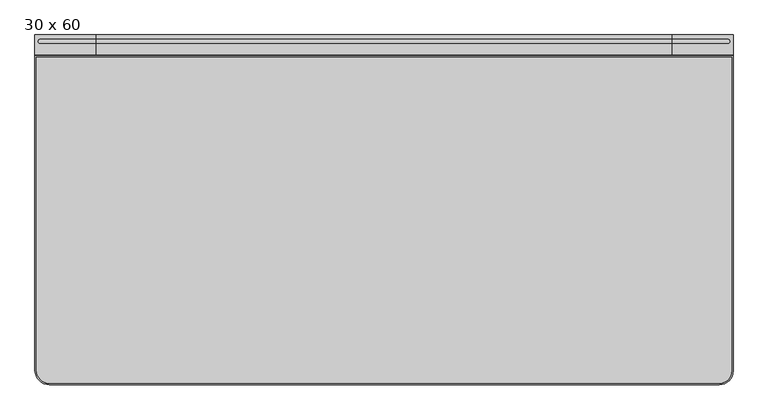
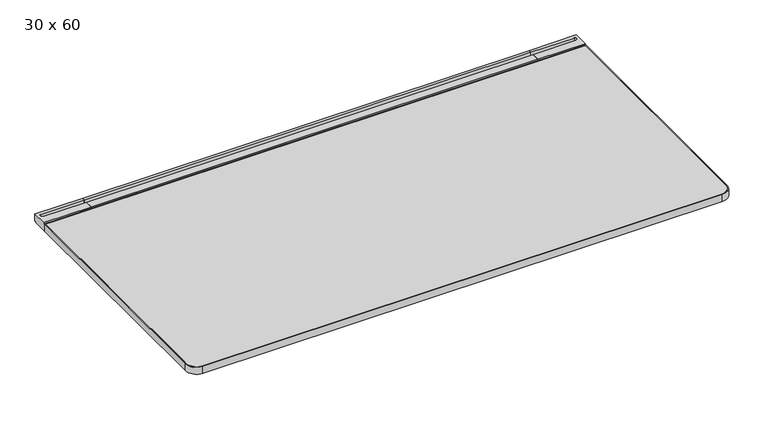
"""IFC4 building model written with IfcOpenShell, lengths in millimetres: furniture geometry, Steelcase - C Scape - Desking - Straight : 30 x 60."""

from ifc_helpers import new_model, si_unit, point, frame, frame_2d, origin, place, context, project, spatial, polyline, circle_curve, trimmed, segment, composite_curve, outline, extrude, faceted_brep, source, transform, mapped, element, save
from ifc_brep_helpers import plane_surface, cylinder_surface, revolved_surface, advanced_brep


def furniture_30_x_60_1927a441(model_context):
    return source(origin(), model_context, "Body", "SolidModel", [
        advanced_brep(
        [(1389.4562243, -45.3135132, 703.3768), (1389.4562243, -45.3135132, 722.4268341), (1389.4562243, -42.7750923, 722.4268341), (1389.4562243, -42.7750923, 725.932), (1389.4562243, -19.3290527, 725.932), (1389.4562243, -19.3290527, 713.486), (1389.4562243, -8.5111084, 713.486), (1389.4562243, -8.5111084, 725.932), (1389.4562243, 0.0, 725.932), (1389.4562243, 0.0, 705.1038636), (1389.4562243, -3.2278472, 705.1038636), (1389.4562243, -4.0331902, 703.3768), (1522.4760119, -45.3135132, 703.3768), (1522.4760119, -4.0331902, 703.3768), (1522.4760119, -3.2278472, 705.1038636), (1522.4760119, 0.0, 705.1038636), (1522.4760119, 0.0, 725.932), (1522.4760119, -42.7750923, 725.932), (1522.4760119, -42.7750923, 722.4268341), (1522.4760119, -45.3135132, 722.4268341), (1510.7139392, -8.5111084, 725.932), (1510.7139392, -19.3290527, 725.932), (1510.7139392, -19.3290527, 713.486), (1510.7139392, -8.5111084, 713.486)],
        [
            (0, 1),
            (1, 2),
            (2, 3),
            (3, 4),
            (4, 5),
            (5, 6),
            (6, 7),
            (7, 8),
            (8, 9),
            (9, 10),
            (10, 11),
            (11, 0),
            (12, 13),
            (13, 14),
            (14, 15),
            (15, 16),
            (16, 17),
            (17, 18),
            (18, 19),
            (19, 12),
            (11, 13),
            (12, 0),
            (10, 14),
            (9, 15),
            (8, 16),
            (7, 20),
            (20, 21, circle_curve(frame((1510.7139392, -13.9200806, 725.932), z_axis=(0.0, 0.0, -1.0), x_axis=(-1.0, 0.0, 0.0)), 5.4089722)),
            (21, 4),
            (3, 17),
            (2, 18),
            (1, 19),
            (5, 22),
            (22, 23, circle_curve(frame((1510.7139392, -13.9200806, 713.486), z_axis=(0.0, 0.0, 1.0), x_axis=(-1.0, 0.0, 0.0)), 5.4089722)),
            (23, 6),
            (23, 20),
            (22, 21),
        ],
        [
            plane_surface(frame((1389.4562243, -45.3135132, 703.3768), z_axis=(-1.0, 0.0, 0.0), x_axis=(0.0, 1.0, 0.0))),
            plane_surface(frame((1522.4760119, -45.3135132, 703.3768), z_axis=(1.0, 0.0, 0.0), x_axis=(0.0, -1.0, 0.0))),
            plane_surface(frame((1389.4562243, -45.3135132, 703.3768), z_axis=(0.0, 0.0, -1.0), x_axis=(1.0, 0.0, 0.0))),
            plane_surface(frame((1389.4562243, -4.0331902, 703.3768), z_axis=(0.0, 0.9063077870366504, -0.4226182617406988), x_axis=(1.0, 0.0, 0.0))),
            plane_surface(frame((1389.4562243, -3.2278472, 705.1038636), z_axis=(0.0, 0.0, -1.0), x_axis=(1.0, 0.0, 0.0))),
            plane_surface(frame((1389.4562243, 0.0, 705.1038636), z_axis=(0.0, 1.0, 0.0), x_axis=(1.0, 0.0, 0.0))),
            plane_surface(frame((1389.4562243, 0.0, 725.932), z_axis=(0.0, 0.0, 1.0), x_axis=(1.0, 0.0, 0.0))),
            plane_surface(frame((1389.4562243, -42.7750923, 725.932), z_axis=(0.0, -1.0, 0.0), x_axis=(1.0, 0.0, 0.0))),
            plane_surface(frame((1389.4562243, -42.7750923, 722.4268341), z_axis=(0.0, 0.0, 1.0), x_axis=(1.0, 0.0, 0.0))),
            plane_surface(frame((1389.4562243, -45.3135132, 722.4268341), z_axis=(0.0, -1.0, 0.0), x_axis=(1.0, 0.0, 0.0))),
            plane_surface(frame((1510.7139392, -8.5111084, 713.486), z_axis=(0.0, 0.0, 1.0), x_axis=(-1.0, 0.0, 0.0))),
            plane_surface(frame((1389.4562243, -8.5111084, 731.2180541), z_axis=(0.0, -1.0, 0.0), x_axis=(0.0, 0.0, -1.0))),
            revolved_surface(polyline([(1505.3049669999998, -13.9200806, 725.932), (1505.3049669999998, -13.9200806, 713.486)]), (1510.7139392, -13.9200806, 713.486), (0.0, 0.0, 1.0)),
            plane_surface(frame((1510.7139392, -19.3290527, 731.2180541), z_axis=(0.0, 1.0, 0.0), x_axis=(0.0, 0.0, -1.0))),
        ],
        [
            (0, [[1, 2, 3, 4, 5, 6, 7, 8, 9, 10, 11, 12]]),
            (1, [[13, 14, 15, 16, 17, 18, 19, 20]]),
            (2, [[21, -13, 22, -12]]),
            (3, [[23, -14, -21, -11]]),
            (4, [[24, -15, -23, -10]]),
            (5, [[25, -16, -24, -9]]),
            (6, [[-25, -8, 26, 27, 28, -4, 29, -17]]),
            (7, [[30, -18, -29, -3]]),
            (8, [[31, -19, -30, -2]]),
            (9, [[-22, -20, -31, -1]]),
            (10, [[-6, 32, 33, 34]]),
            (11, [[35, -26, -7, -34]]),
            (12, [[36, -27, -35, -33]]),
            (13, [[-5, -28, -36, -32]]),
        ],
    ),
        faceted_brep([(1503.4252487, -565.0752923, 700.7093833), (1503.4252487, -565.0752923, 703.3768), (1389.4562243, -565.0752923, 703.3768), (1389.4562243, -565.0752923, 679.3263935), (1405.0903818, -565.0752923, 679.3263935), (1407.710924, -565.0752923, 693.4200291), (1489.1501391, -565.0752923, 693.4200291), (1503.4252487, -4.0331902, 700.7093833), (1489.1501391, -4.0331902, 693.4200291), (1407.710924, -4.0331902, 693.4200291), (1395.8046772, -4.0331902, 629.3866), (1389.4562243, -4.0331902, 629.3866), (1389.4562243, -4.0331902, 703.3768), (1503.4252487, -4.0331902, 703.3768), (1402.9251068, -376.5599397, 667.6812472), (1395.8046772, -364.1172546, 629.3866), (1389.4562243, -364.1172546, 629.3866), (1389.4562243, -376.5599397, 667.6812472)], [[[0, 1, 2, 3, 4, 5, 6]], [[7, 8, 9, 10, 11, 12, 13]], [[6, 8, 7, 0]], [[5, 9, 8, 6]], [[9, 5, 4, 14, 15, 10]], [[10, 15, 16, 11]], [[11, 16, 17, 3, 2, 12]], [[1, 13, 12, 2]], [[0, 7, 13, 1]], [[14, 4, 3, 17]], [[17, 16, 15, 14]]]),
        extrude(outline(composite_curve([segment(polyline([(-293.5216187, 657.3775839), (-559.0022133, 680.1371551)]), True, "CONTINUOUS"), segment(trimmed(circle_curve(frame_2d((-558.7581271, 682.9843154)), 2.8576039), [point((-559.0022133, 680.1371551))], [point((-561.5383043, 682.3236226))], False, "CARTESIAN"), True, "CONTINUOUS"), segment(polyline([(-561.5383043, 682.3236226), (-566.0887542, 701.4717905), (-557.8334441, 701.4717905), (-557.8334441, 703.3768), (-442.6683806, 703.3768), (-442.6683806, 696.3917953), (-318.2108611, 696.3917953), (-318.2108611, 703.3768), (-293.5216187, 703.3768), (-293.5216187, 657.3775839)]), True, "CONTINUOUS")], self_intersect=False)), frame((725.424, 0.0, 0.0), z_axis=(1.0, 0.0, 0.0), x_axis=(0.0, 1.0, 0.0)), (0.0, 0.0, 1.0), 73.152),
        advanced_brep(
        [(134.6072876, -45.3135132, 703.3768), (134.6072876, -4.0331902, 703.3768), (134.6072876, -3.2278472, 705.1038636), (134.6072876, 0.0, 705.1038636), (134.6072876, 0.0, 725.932), (134.6072876, -8.5111084, 725.932), (134.6072876, -8.5111084, 713.486), (134.6072876, -19.3290527, 713.486), (134.6072876, -19.3290527, 725.932), (134.6072876, -42.7750923, 725.932), (134.6072876, -42.7750923, 722.4268341), (134.6072876, -45.3135132, 722.4268341), (1.5875, -45.3135132, 703.3768), (1.5875, -45.3135132, 722.4268341), (1.5875, -42.7750923, 722.4268341), (1.5875, -42.7750923, 725.932), (1.5875, 0.0, 725.932), (1.5875, 0.0, 705.1038636), (1.5875, -3.2278472, 705.1038636), (1.5875, -4.0331902, 703.3768), (13.3495728, -19.3290527, 725.932), (13.3495728, -8.5111084, 725.932), (13.3495728, -8.5111084, 713.486), (13.3495728, -19.3290527, 713.486)],
        [
            (0, 1),
            (1, 2),
            (2, 3),
            (3, 4),
            (4, 5),
            (5, 6),
            (6, 7),
            (7, 8),
            (8, 9),
            (9, 10),
            (10, 11),
            (11, 0),
            (12, 13),
            (13, 14),
            (14, 15),
            (15, 16),
            (16, 17),
            (17, 18),
            (18, 19),
            (19, 12),
            (0, 12),
            (19, 1),
            (18, 2),
            (17, 3),
            (16, 4),
            (15, 9),
            (8, 20),
            (20, 21, circle_curve(frame((13.3495728, -13.9200806, 725.932), z_axis=(0.0, 0.0, -1.0), x_axis=(1.0, 0.0, 0.0)), 5.4089722)),
            (21, 5),
            (14, 10),
            (13, 11),
            (6, 22),
            (22, 23, circle_curve(frame((13.3495728, -13.9200806, 713.486), z_axis=(0.0, 0.0, 1.0), x_axis=(1.0, 0.0, 0.0)), 5.4089722)),
            (23, 7),
            (21, 22),
            (20, 23),
        ],
        [
            plane_surface(frame((134.6072876, -45.3135132, 703.3768), z_axis=(1.0, 0.0, 0.0), x_axis=(0.0, 1.0, 0.0))),
            plane_surface(frame((1.5875, -45.3135132, 703.3768), z_axis=(-1.0, 0.0, 0.0), x_axis=(0.0, -1.0, 0.0))),
            plane_surface(frame((134.6072876, -45.3135132, 703.3768), z_axis=(0.0, 0.0, -1.0), x_axis=(-1.0, 0.0, 0.0))),
            plane_surface(frame((134.6072876, -4.0331902, 703.3768), z_axis=(0.0, 0.9063077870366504, -0.4226182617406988), x_axis=(-1.0, 0.0, 0.0))),
            plane_surface(frame((134.6072876, -3.2278472, 705.1038636), z_axis=(0.0, 0.0, -1.0), x_axis=(-1.0, 0.0, 0.0))),
            plane_surface(frame((134.6072876, 0.0, 705.1038636), z_axis=(0.0, 1.0, 0.0), x_axis=(-1.0, 0.0, 0.0))),
            plane_surface(frame((134.6072876, 0.0, 725.932), z_axis=(0.0, 0.0, 1.0), x_axis=(-1.0, 0.0, 0.0))),
            plane_surface(frame((134.6072876, -42.7750923, 725.932), z_axis=(0.0, -1.0, 0.0), x_axis=(-1.0, 0.0, 0.0))),
            plane_surface(frame((134.6072876, -42.7750923, 722.4268341), z_axis=(0.0, 0.0, 1.0), x_axis=(-1.0, 0.0, 0.0))),
            plane_surface(frame((134.6072876, -45.3135132, 722.4268341), z_axis=(0.0, -1.0, 0.0), x_axis=(-1.0, 0.0, 0.0))),
            plane_surface(frame((13.3495728, -8.5111084, 713.486), z_axis=(0.0, 0.0, 1.0), x_axis=(1.0, 0.0, 0.0))),
            plane_surface(frame((134.6072876, -8.5111084, 731.2180541), z_axis=(0.0, -1.0, 0.0), x_axis=(0.0, 0.0, -1.0))),
            revolved_surface(polyline([(18.758545, -13.9200806, 725.932), (18.758545, -13.9200806, 713.486)]), (13.3495728, -13.9200806, 713.486), (0.0, 0.0, 1.0)),
            plane_surface(frame((13.3495728, -19.3290527, 731.2180541), z_axis=(0.0, 1.0, 0.0), x_axis=(0.0, 0.0, -1.0))),
        ],
        [
            (0, [[1, 2, 3, 4, 5, 6, 7, 8, 9, 10, 11, 12]]),
            (1, [[13, 14, 15, 16, 17, 18, 19, 20]]),
            (2, [[-1, 21, -20, 22]]),
            (3, [[-2, -22, -19, 23]]),
            (4, [[-3, -23, -18, 24]]),
            (5, [[-4, -24, -17, 25]]),
            (6, [[-16, 26, -9, 27, 28, 29, -5, -25]]),
            (7, [[-10, -26, -15, 30]]),
            (8, [[-11, -30, -14, 31]]),
            (9, [[-12, -31, -13, -21]]),
            (10, [[32, 33, 34, -7]]),
            (11, [[-32, -6, -29, 35]]),
            (12, [[-33, -35, -28, 36]]),
            (13, [[-34, -36, -27, -8]]),
        ],
    ),
        faceted_brep([(20.6382632, -565.0752923, 700.7093833), (34.9133728, -565.0752923, 693.4200291), (116.3525879, -565.0752923, 693.4200291), (118.9731301, -565.0752923, 679.3263935), (134.6072876, -565.0752923, 679.3263935), (134.6072876, -565.0752923, 703.3768), (20.6382632, -565.0752923, 703.3768), (20.6382632, -4.0331902, 700.7093833), (20.6382632, -4.0331902, 703.3768), (134.6072876, -4.0331902, 703.3768), (134.6072876, -4.0331902, 629.3866), (128.2588347, -4.0331902, 629.3866), (116.3525879, -4.0331902, 693.4200291), (34.9133728, -4.0331902, 693.4200291), (128.2588347, -364.1172546, 629.3866), (121.1384051, -376.5599397, 667.6812472), (134.6072876, -364.1172546, 629.3866), (134.6072876, -376.5599397, 667.6812472)], [[[0, 1, 2, 3, 4, 5, 6]], [[7, 8, 9, 10, 11, 12, 13]], [[1, 0, 7, 13]], [[2, 1, 13, 12]], [[12, 11, 14, 15, 3, 2]], [[11, 10, 16, 14]], [[10, 9, 5, 4, 17, 16]], [[6, 5, 9, 8]], [[0, 6, 8, 7]], [[15, 17, 4, 3]], [[17, 15, 14, 16]]]),
        extrude(outline(polyline([(-8.5111084, 725.932), (0.0, 725.932), (0.0, 705.1038636), (-3.2278472, 705.1038636), (-4.0331902, 703.3768), (-45.3135132, 703.3768), (-45.3135132, 722.4268341), (-42.7750923, 722.4268341), (-42.7750923, 725.932), (-19.3290527, 725.932), (-19.3290527, 713.486), (-8.5111084, 713.486), (-8.5111084, 725.932)])), frame((134.6072876, 0.0, 0.0), z_axis=(1.0, 0.0, 0.0), x_axis=(0.0, 1.0, 0.0)), (0.0, 0.0, 1.0), 1254.8489367),
        extrude(outline(polyline([(134.6072876, -293.5216187), (134.6072876, -4.0331902), (1389.4562243, -4.0331902), (1389.4562243, -293.5216187), (134.6072876, -293.5216187)])), frame((0.0, 0.0, 629.3866), z_axis=(0.0, 0.0, 1.0), x_axis=(1.0, 0.0, 0.0)), (0.0, 0.0, 1.0), 73.9902),
        advanced_brep(
        [(4.6355, -48.3660689, 723.9), (4.6355, -730.25, 723.9), (33.3375, -758.9490234, 723.9), (1492.6737019, -758.9490234, 723.9), (1519.4273608, -732.1953645, 723.9), (1519.4273608, -48.3660689, 723.9), (4.6355, -48.3660689, 703.3768), (1519.4273608, -48.3660689, 703.3768), (1519.4273608, -732.1953645, 703.3768), (1492.6737019, -758.9490234, 703.3768), (33.3375, -758.9490234, 703.3768), (4.6384766, -730.25, 703.3768)],
        [
            (0, 1),
            (1, 2, circle_curve(frame((33.3375, -730.25, 723.9), z_axis=(0.0, 0.0, 1.0), x_axis=(1.0, 0.0, 0.0)), 28.6990234)),
            (2, 3),
            (3, 4, circle_curve(frame((1492.6737019, -732.1953645, 723.9), z_axis=(0.0, 0.0, 1.0), x_axis=(1.0, 0.0, 0.0)), 26.7536589)),
            (4, 5),
            (5, 0),
            (6, 7),
            (7, 8),
            (8, 9, circle_curve(frame((1492.6737019, -732.1953645, 703.3768), z_axis=(0.0, 0.0, -1.0), x_axis=(1.0, 0.0, 0.0)), 26.7536589)),
            (9, 10),
            (10, 11, circle_curve(frame((33.3375, -730.25, 703.3768), z_axis=(0.0, 0.0, -1.0), x_axis=(1.0, 0.0, 0.0)), 28.6990234)),
            (11, 6),
            (0, 6),
            (11, 1),
            (10, 2),
            (9, 3),
            (8, 4),
            (7, 5),
        ],
        [
            plane_surface(frame((4.6355, -48.3660689, 723.9), z_axis=(0.0, 0.0, 1.0), x_axis=(0.0, -1.0, 0.0))),
            plane_surface(frame((4.6355, -48.3660689, 703.3768), z_axis=(0.0, 0.0, -1.0), x_axis=(0.0, 1.0, 0.0))),
            plane_surface(frame((4.6355, -48.3660689, 723.9), z_axis=(-1.0, 0.0, 0.0), x_axis=(0.0, 0.0, -1.0))),
            cylinder_surface(frame((33.3375, -730.25, 703.3768), z_axis=(0.0, 0.0, 1.0), x_axis=(1.0, 0.0, 0.0)), 28.6990234),
            plane_surface(frame((33.3375, -758.9490234, 723.9), z_axis=(0.0, -1.0, 0.0), x_axis=(0.0, 0.0, -1.0))),
            cylinder_surface(frame((1492.6737019, -732.1953645, 703.3768), z_axis=(0.0, 0.0, 1.0), x_axis=(1.0, 0.0, 0.0)), 26.7536589),
            plane_surface(frame((1519.4273608, -732.1953645, 723.9), z_axis=(1.0, 0.0, 0.0), x_axis=(0.0, 0.0, -1.0))),
            plane_surface(frame((1519.4273608, -48.3660689, 723.9), z_axis=(0.0, 1.0, 0.0), x_axis=(0.0, 0.0, -1.0))),
        ],
        [
            (0, [[1, 2, 3, 4, 5, 6]]),
            (1, [[7, 8, 9, 10, 11, 12]]),
            (2, [[-1, 13, -12, 14]]),
            (3, [[-2, -14, -11, 15]]),
            (4, [[-3, -15, -10, 16]]),
            (5, [[-4, -16, -9, 17]]),
            (6, [[-5, -17, -8, 18]]),
            (7, [[-6, -18, -7, -13]]),
        ],
    ),
        extrude(outline(composite_curve([segment(trimmed(circle_curve(frame_2d((33.3375, -730.25)), 31.75), [point((33.3375, -762.0))], [point((1.5875, -730.25))], False, "CARTESIAN"), True, "CONTINUOUS"), segment(polyline([(1.5875, -730.25), (1.5875, -45.3150923), (1522.476, -45.3150923), (1522.476, -732.1250374)]), True, "CONTINUOUS"), segment(trimmed(circle_curve(frame_2d((1492.6010374, -732.1250374)), 29.8749626), [point((1522.476, -732.1250374))], [point((1492.6010374, -762.0))], False, "CARTESIAN"), True, "CONTINUOUS"), segment(polyline([(1492.6010374, -762.0), (33.3375, -762.0)]), True, "CONTINUOUS")], self_intersect=False), holes=[composite_curve([segment(polyline([(1519.4250234, -48.3660689), (4.6384766, -48.3660689), (4.6384766, -730.25)]), True, "CONTINUOUS"), segment(trimmed(circle_curve(frame_2d((33.3375, -730.25)), 28.6990234), [point((4.6384766, -730.25))], [point((33.3375, -758.9490234))], True, "CARTESIAN"), True, "CONTINUOUS"), segment(polyline([(33.3375, -758.9490234), (1492.6010374, -758.9490234)]), True, "CONTINUOUS"), segment(trimmed(circle_curve(frame_2d((1492.6010374, -732.1250374)), 26.8239861), [point((1492.6010374, -758.9490234))], [point((1519.4250234, -732.1250374))], True, "CARTESIAN"), True, "CONTINUOUS"), segment(polyline([(1519.4250234, -732.1250374), (1519.4250234, -48.3660689)]), True, "CONTINUOUS")], self_intersect=False)]), frame((0.0, 0.0, 703.3768), z_axis=(0.0, 0.0, 1.0), x_axis=(1.0, 0.0, 0.0)), (0.0, 0.0, 1.0), 20.5232),
    ])


if __name__ == "__main__":
    model = new_model("IFC4")
    model_context = context("Model", 3, world=origin())
    ifc_project = project(units=[si_unit("LENGTHUNIT", "METRE", prefix="MILLI")], contexts=[model_context])
    site = spatial("IfcSite", under=ifc_project)
    building = spatial("IfcBuilding", under=site)
    placement = place(None, origin())
    furniture_30_x_60_shape = furniture_30_x_60_1927a441(model_context)
    element("IfcFurniture", 1, ObjectType="Steelcase - C Scape - Desking - Straight : 30 x 60", at=placement, inside=building, context=model_context, shape_type="MappedRepresentation", body=[
        mapped(furniture_30_x_60_shape, transform((0.0, 0.0, 0.0), x_axis=(1.0, 0.0, 0.0), y_axis=(0.0, 1.0, 0.0), z_axis=(0.0, 0.0, 1.0))),
    ])
    save(model, "model.ifc")
